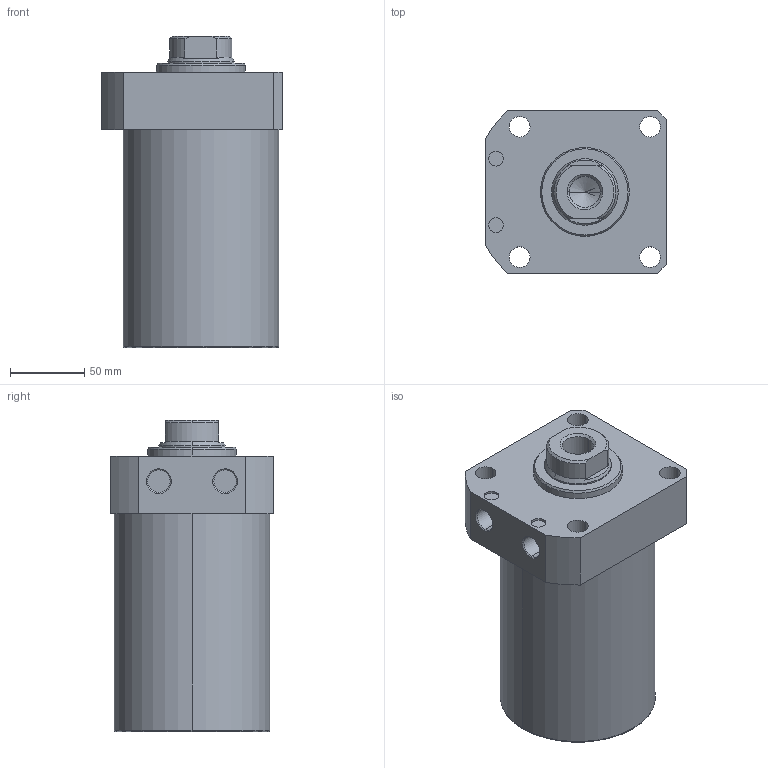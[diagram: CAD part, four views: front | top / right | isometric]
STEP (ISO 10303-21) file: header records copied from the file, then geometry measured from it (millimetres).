
FILE_DESCRIPTION (( 'STEP AP203' ), '1' );
FILE_NAME ('CLLR-105CA-100.STEP', '2019-12-18T07:10:08', ( '' ), ( '' ), 'SwSTEP 2.0', 'SolidWorks 2015', '' );
FILE_SCHEMA (( 'CONFIG_CONTROL_DESIGN' ));
Length unit declared in the file: millimetre
Products named in the file (1): CLLR-105CA-100
Bounding box: 122 x 110 x 210 mm (x, y, z)
Volume: 1770033.6 mm3; surface area: 107075.7 mm2
Topology: 1 solids, 1 shells, 65 faces, 153 edges, 96 vertices
Faces by surface type: cylinder 29, plane 19, cone 15, torus 2
Entity records: 1971 total; most frequent: DIRECTION 352, CARTESIAN_POINT 337, ORIENTED_EDGE 302, EDGE_CURVE 151, AXIS2_PLACEMENT_3D 143, VERTEX_POINT 96, EDGE_LOOP 81, CIRCLE 77
